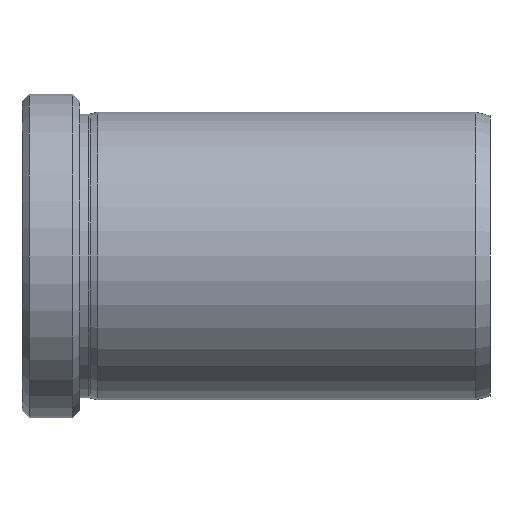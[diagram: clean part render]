
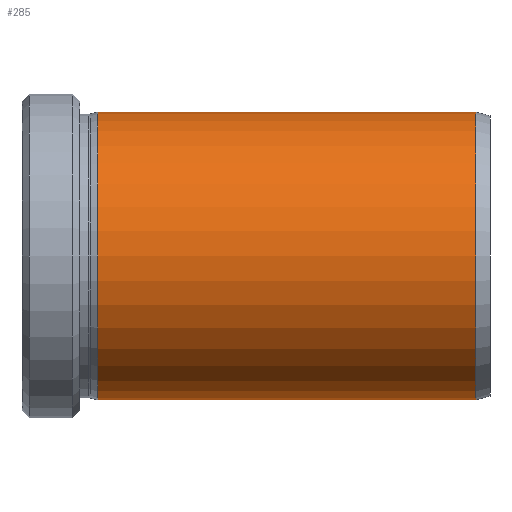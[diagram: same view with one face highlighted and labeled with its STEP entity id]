
A CAD part, front view. The second image highlights one B-rep face of the part: STEP entity #285.
In plain terms, the highlighted cylindrical face has radius 20 mm (diameter 40 mm), a partial arc.
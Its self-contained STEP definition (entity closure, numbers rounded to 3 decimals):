
#23 = VECTOR ( 'NONE', #94, 1000. ) ;
#39 = VERTEX_POINT ( 'NONE', #505 ) ;
#51 = CARTESIAN_POINT ( 'NONE',  ( 0., 0., -20. ) ) ;
#52 = CYLINDRICAL_SURFACE ( 'NONE', #470, 20. ) ;
#55 = DIRECTION ( 'NONE',  ( 0., 0., 1. ) ) ;
#56 = DIRECTION ( 'NONE',  ( 0., 0., 1. ) ) ;
#74 = ORIENTED_EDGE ( 'NONE', *, *, #267, .F. ) ;
#78 = ORIENTED_EDGE ( 'NONE', *, *, #280, .T. ) ;
#79 = CIRCLE ( 'NONE', #366, 20. ) ;
#88 = DIRECTION ( 'NONE',  ( -1., 0., 0. ) ) ;
#94 = DIRECTION ( 'NONE',  ( -1., 0., 0. ) ) ;
#101 = DIRECTION ( 'NONE',  ( -1., 0., 0. ) ) ;
#118 = VERTEX_POINT ( 'NONE', #480 ) ;
#148 = LINE ( 'NONE', #51, #23 ) ;
#155 = CARTESIAN_POINT ( 'NONE',  ( 0., 0., 0. ) ) ;
#161 = VECTOR ( 'NONE', #640, 1000. ) ;
#190 = FACE_OUTER_BOUND ( 'NONE', #330, .T. ) ;
#247 = CARTESIAN_POINT ( 'NONE',  ( 21.3, 0., -20. ) ) ;
#267 = EDGE_CURVE ( 'NONE', #526, #355, #323, .T. ) ;
#280 = EDGE_CURVE ( 'NONE', #118, #39, #79, .T. ) ;
#285 = ADVANCED_FACE ( 'NONE', ( #190 ), #52, .T. ) ;
#305 = ORIENTED_EDGE ( 'NONE', *, *, #311, .T. ) ;
#311 = EDGE_CURVE ( 'NONE', #39, #355, #553, .T. ) ;
#323 = CIRCLE ( 'NONE', #432, 20. ) ;
#330 = EDGE_LOOP ( 'NONE', ( #490, #78, #305, #74 ) ) ;
#338 = DIRECTION ( 'NONE',  ( 0., 0., 1. ) ) ;
#347 = EDGE_CURVE ( 'NONE', #118, #526, #148, .T. ) ;
#352 = DIRECTION ( 'NONE',  ( -1., 0., 0. ) ) ;
#355 = VERTEX_POINT ( 'NONE', #499 ) ;
#366 = AXIS2_PLACEMENT_3D ( 'NONE', #394, #88, #338 ) ;
#383 = CARTESIAN_POINT ( 'NONE',  ( 0., 0., 20. ) ) ;
#394 = CARTESIAN_POINT ( 'NONE',  ( 73.8, 0., 0. ) ) ;
#401 = CARTESIAN_POINT ( 'NONE',  ( 21.3, 0., 0. ) ) ;
#432 = AXIS2_PLACEMENT_3D ( 'NONE', #401, #101, #55 ) ;
#470 = AXIS2_PLACEMENT_3D ( 'NONE', #155, #352, #56 ) ;
#480 = CARTESIAN_POINT ( 'NONE',  ( 73.8, 0., -20. ) ) ;
#490 = ORIENTED_EDGE ( 'NONE', *, *, #347, .F. ) ;
#499 = CARTESIAN_POINT ( 'NONE',  ( 21.3, 0., 20. ) ) ;
#505 = CARTESIAN_POINT ( 'NONE',  ( 73.8, 0., 20. ) ) ;
#526 = VERTEX_POINT ( 'NONE', #247 ) ;
#553 = LINE ( 'NONE', #383, #161 ) ;
#640 = DIRECTION ( 'NONE',  ( -1., 0., 0. ) ) ;
